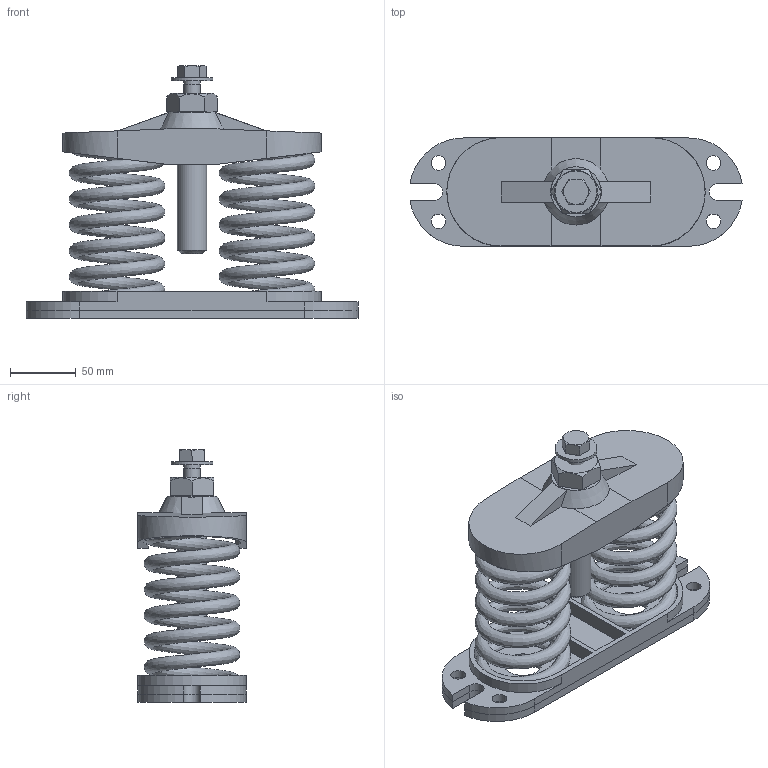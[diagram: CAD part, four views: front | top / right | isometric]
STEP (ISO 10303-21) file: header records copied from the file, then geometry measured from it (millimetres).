
FILE_DESCRIPTION(/* description */ (''),/* implementation_level */ '2;1');
FILE_NAME(/* name */ 'C:\2014_Work\SLFH2C2.stp',/* time_stamp */ '2014-05-08T10:41:47-04:00',/* author */ ('mleuck'),/* organization */ (''),/* preprocessor_version */ 'ST-DEVELOPER v15.2',/* originating_system */ 'Autodesk Inventor 2014',/* authorisation */ '');
FILE_SCHEMA (('AUTOMOTIVE_DESIGN { 1 0 10303 214 3 1 1 }'));
Length unit declared in the file: inch
Products named in the file (10): A-16970 SLFH-2 BASE PLATE; A-16970 SLFH-2 BASE PAD; A-16970 SLFH-2 BASE ASSY; C-1841-2 TOP PLATE SLF 2; ANSI B18.22.1 - 1_2 - Regular - Type B; ANSI_ASME B18.2.1 - 1_2-13 UNC - 1.25(2); A-19773-1 SLF-B ADJUSTMENT BOLT 4250 x 08750; SLFH-2 WOS ASSEMBLY PER A-16970-1; SPRING C2-1210 (SILVER); SLFH-2-C2-2420
Bounding box: 253.02 x 82.55 x 192.76 mm (x, y, z)
Volume: 653303.6 mm3; surface area: 250568.5 mm2
Topology: 8 solids, 8 shells, 150 faces, 373 edges, 245 vertices
Faces by surface type: plane 90, cylinder 40, cone 15, torus 3, bspline 2
Full cylindrical faces by diameter (mm): 10.592 x1, 11.112 x8, 12.7 x1, 13.487 x1, 19.05 x1, 19.177 x1, 22.225 x1, 28.575 x4, 31.75 x1, 38.1 x1
Entity records: 6504 total; most frequent: CARTESIAN_POINT 2962, DIRECTION 726, ORIENTED_EDGE 636, EDGE_CURVE 318, AXIS2_PLACEMENT_3D 276, VERTEX_POINT 221, EDGE_LOOP 207, LINE 174
